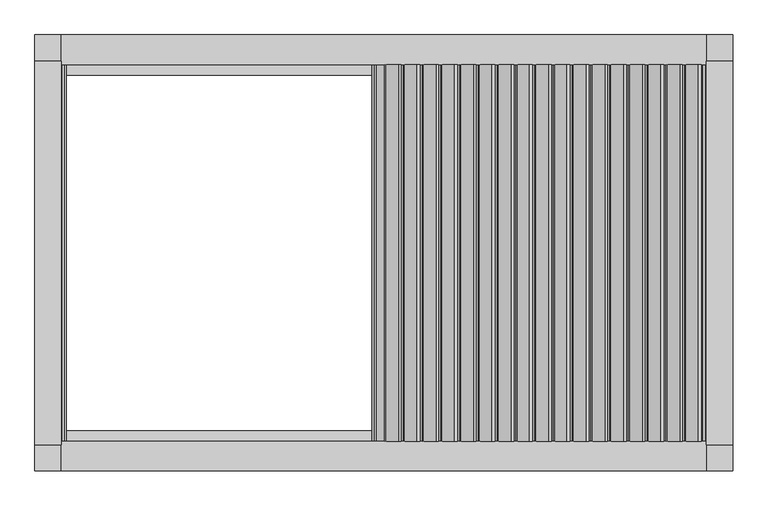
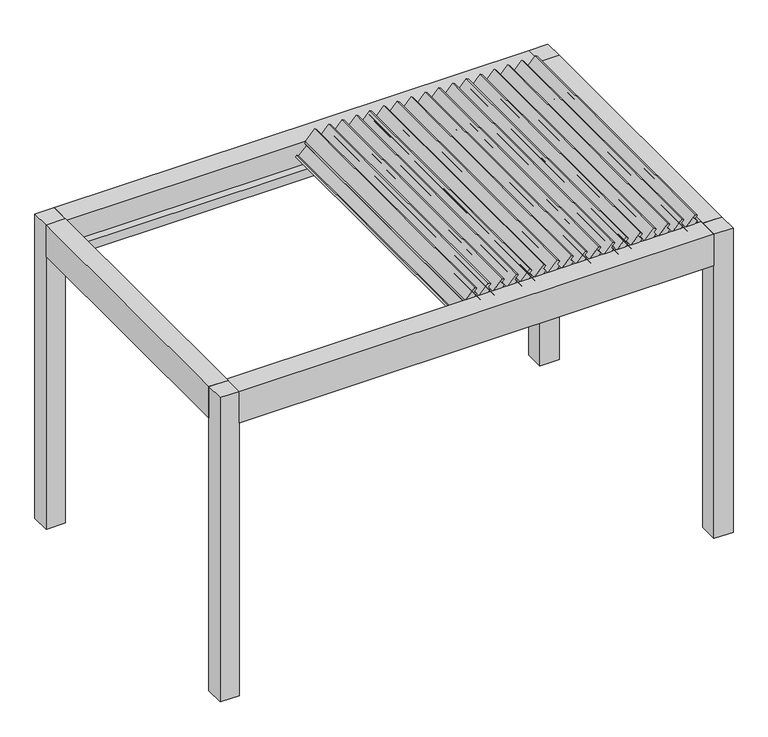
"""IFC4 building model written with IfcOpenShell, lengths in millimetres: proxy geometry, Renson_Camargue_Skye_Freestanding_Patio covers : Renson_Camargue_Skye_Freestanding_Patio covers."""

from ifc_helpers import new_model, si_unit, point, frame, frame_2d, origin, origin_with_axes, place, context, project, spatial, polyline, circle_curve, trimmed, segment, composite_curve, outline, extrude, source, transform, mapped, element, save


def generic_models_6c4b0e00(model_context):
    return source(origin(), model_context, "Body", "SweptSolid", [
        extrude(outline(composite_curve([segment(polyline([(2532.0835122, 1710.9276745), (2553.3547618, 1693.0789769), (2574.7237457, 1712.4891952), (2586.077577, 1696.2742437), (2504.561844, 1622.2305651)]), True, "CONTINUOUS"), segment(trimmed(circle_curve(frame_2d((2494.4763419, 1633.333837)), 15.0), [point((2504.561844, 1622.2305651))], [point((2485.8726953, 1621.0465563))], False, "CARTESIAN"), True, "CONTINUOUS"), segment(polyline([(2485.8726953, 1621.0465563), (2469.8777579, 1632.2463321), (2407.8391957, 1570.2077699), (2417.7863257, 1556.0017959), (2406.4649975, 1545.7182254), (2384.9376513, 1563.7818136), (2532.0835122, 1710.9276745)]), True, "CONTINUOUS")], self_intersect=False)), frame((0.0, -1080.0, 0.0), z_axis=(0.0, 1.0, 0.0), x_axis=(0.0, 0.0, 1.0)), (0.0, 0.0, 1.0), 2160.0),
        extrude(outline(composite_curve([segment(polyline([(2532.0835122, 1603.4168697), (2553.3547618, 1585.5681721), (2574.7237457, 1604.9783904), (2586.077577, 1588.7634389), (2504.561844, 1514.7197603)]), True, "CONTINUOUS"), segment(trimmed(circle_curve(frame_2d((2494.4763419, 1525.8230322)), 15.0), [point((2504.561844, 1514.7197603))], [point((2485.8726953, 1513.5357516))], False, "CARTESIAN"), True, "CONTINUOUS"), segment(polyline([(2485.8726953, 1513.5357516), (2469.8777579, 1524.7355273), (2407.8391957, 1462.6969652), (2417.7863257, 1448.4909912), (2406.4649975, 1438.2074206), (2384.9376513, 1456.2710088), (2532.0835122, 1603.4168697)]), True, "CONTINUOUS")], self_intersect=False)), frame((0.0, -1080.0, 0.0), z_axis=(0.0, 1.0, 0.0), x_axis=(0.0, 0.0, 1.0)), (0.0, 0.0, 1.0), 2160.0),
        extrude(outline(composite_curve([segment(polyline([(2532.0835122, 1495.906065), (2553.3547618, 1478.0573673), (2574.7237457, 1497.4675857), (2586.077577, 1481.2526342), (2504.561844, 1407.2089555)]), True, "CONTINUOUS"), segment(trimmed(circle_curve(frame_2d((2494.4763419, 1418.3122274)), 15.0), [point((2504.561844, 1407.2089555))], [point((2485.8726953, 1406.0249468))], False, "CARTESIAN"), True, "CONTINUOUS"), segment(polyline([(2485.8726953, 1406.0249468), (2469.8777579, 1417.2247226), (2407.8391957, 1355.1861604), (2417.7863257, 1340.9801864), (2406.4649975, 1330.6966158), (2384.9376513, 1348.760204), (2532.0835122, 1495.906065)]), True, "CONTINUOUS")], self_intersect=False)), frame((0.0, -1080.0, 0.0), z_axis=(0.0, 1.0, 0.0), x_axis=(0.0, 0.0, 1.0)), (0.0, 0.0, 1.0), 2160.0),
        extrude(outline(composite_curve([segment(polyline([(2532.0835122, 1388.3952602), (2553.3547618, 1370.5465625), (2574.7237457, 1389.9567809), (2586.077577, 1373.7418294), (2504.561844, 1299.6981507)]), True, "CONTINUOUS"), segment(trimmed(circle_curve(frame_2d((2494.4763419, 1310.8014227)), 15.0), [point((2504.561844, 1299.6981507))], [point((2485.8726953, 1298.514142))], False, "CARTESIAN"), True, "CONTINUOUS"), segment(polyline([(2485.8726953, 1298.514142), (2469.8777579, 1309.7139178), (2407.8391957, 1247.6753556), (2417.7863257, 1233.4693816), (2406.4649975, 1223.185811), (2384.9376513, 1241.2493993), (2532.0835122, 1388.3952602)]), True, "CONTINUOUS")], self_intersect=False)), frame((0.0, -1080.0, 0.0), z_axis=(0.0, 1.0, 0.0), x_axis=(0.0, 0.0, 1.0)), (0.0, 0.0, 1.0), 2160.0),
        extrude(outline(composite_curve([segment(polyline([(2532.0835122, 1280.8844554), (2553.3547618, 1263.0357577), (2574.7237457, 1282.4459761), (2586.077577, 1266.2310246), (2504.561844, 1192.187346)]), True, "CONTINUOUS"), segment(trimmed(circle_curve(frame_2d((2494.4763419, 1203.2906179)), 15.0), [point((2504.561844, 1192.187346))], [point((2485.8726953, 1191.0033372))], False, "CARTESIAN"), True, "CONTINUOUS"), segment(polyline([(2485.8726953, 1191.0033372), (2469.8777579, 1202.203113), (2407.8391957, 1140.1645508), (2417.7863257, 1125.9585768), (2406.4649975, 1115.6750063), (2384.9376513, 1133.7385945), (2532.0835122, 1280.8844554)]), True, "CONTINUOUS")], self_intersect=False)), frame((0.0, -1080.0, 0.0), z_axis=(0.0, 1.0, 0.0), x_axis=(0.0, 0.0, 1.0)), (0.0, 0.0, 1.0), 2160.0),
        extrude(outline(composite_curve([segment(polyline([(2532.0835122, 1173.3736506), (2553.3547618, 1155.5249529), (2574.7237457, 1174.9351713), (2586.077577, 1158.7202198), (2504.561844, 1084.6765412)]), True, "CONTINUOUS"), segment(trimmed(circle_curve(frame_2d((2494.4763419, 1095.7798131)), 15.0), [point((2504.561844, 1084.6765412))], [point((2485.8726953, 1083.4925324))], False, "CARTESIAN"), True, "CONTINUOUS"), segment(polyline([(2485.8726953, 1083.4925324), (2469.8777579, 1094.6923082), (2407.8391957, 1032.653746), (2417.7863257, 1018.447772), (2406.4649975, 1008.1642015), (2384.9376513, 1026.2277897), (2532.0835122, 1173.3736506)]), True, "CONTINUOUS")], self_intersect=False)), frame((0.0, -1080.0, 0.0), z_axis=(0.0, 1.0, 0.0), x_axis=(0.0, 0.0, 1.0)), (0.0, 0.0, 1.0), 2160.0),
        extrude(outline(composite_curve([segment(polyline([(2532.0835122, 1065.8628458), (2553.3547618, 1048.0141482), (2574.7237457, 1067.4243665), (2586.077577, 1051.209415), (2504.561844, 977.1657364)]), True, "CONTINUOUS"), segment(trimmed(circle_curve(frame_2d((2494.4763419, 988.2690083)), 15.0), [point((2504.561844, 977.1657364))], [point((2485.8726953, 975.9817276))], False, "CARTESIAN"), True, "CONTINUOUS"), segment(polyline([(2485.8726953, 975.9817276), (2469.8777579, 987.1815034), (2407.8391957, 925.1429413), (2417.7863257, 910.9369673), (2406.4649975, 900.6533967), (2384.9376513, 918.7169849), (2532.0835122, 1065.8628458)]), True, "CONTINUOUS")], self_intersect=False)), frame((0.0, -1080.0, 0.0), z_axis=(0.0, 1.0, 0.0), x_axis=(0.0, 0.0, 1.0)), (0.0, 0.0, 1.0), 2160.0),
        extrude(outline(composite_curve([segment(polyline([(2532.0835122, 958.3520411), (2553.3547618, 940.5033434), (2574.7237457, 959.9135617), (2586.077577, 943.6986103), (2504.561844, 869.6549316)]), True, "CONTINUOUS"), segment(trimmed(circle_curve(frame_2d((2494.4763419, 880.7582035)), 15.0), [point((2504.561844, 869.6549316))], [point((2485.8726953, 868.4709229))], False, "CARTESIAN"), True, "CONTINUOUS"), segment(polyline([(2485.8726953, 868.4709229), (2469.8777579, 879.6706987), (2407.8391957, 817.6321365), (2417.7863257, 803.4261625), (2406.4649975, 793.1425919), (2384.9376513, 811.2061801), (2532.0835122, 958.3520411)]), True, "CONTINUOUS")], self_intersect=False)), frame((0.0, -1080.0, 0.0), z_axis=(0.0, 1.0, 0.0), x_axis=(0.0, 0.0, 1.0)), (0.0, 0.0, 1.0), 2160.0),
        extrude(outline(composite_curve([segment(polyline([(2532.0835122, 850.8412363), (2553.3547618, 832.9925386), (2574.7237457, 852.402757), (2586.077577, 836.1878055), (2504.561844, 762.1441268)]), True, "CONTINUOUS"), segment(trimmed(circle_curve(frame_2d((2494.4763419, 773.2473987)), 15.0), [point((2504.561844, 762.1441268))], [point((2485.8726953, 760.9601181))], False, "CARTESIAN"), True, "CONTINUOUS"), segment(polyline([(2485.8726953, 760.9601181), (2469.8777579, 772.1598939), (2407.8391957, 710.1213317), (2417.7863257, 695.9153577), (2406.4649975, 685.6317871), (2384.9376513, 703.6953753), (2532.0835122, 850.8412363)]), True, "CONTINUOUS")], self_intersect=False)), frame((0.0, -1080.0, 0.0), z_axis=(0.0, 1.0, 0.0), x_axis=(0.0, 0.0, 1.0)), (0.0, 0.0, 1.0), 2160.0),
        extrude(outline(composite_curve([segment(polyline([(2532.0835122, 743.3304315), (2553.3547618, 725.4817338), (2574.7237457, 744.8919522), (2586.077577, 728.6770007), (2504.561844, 654.6333221)]), True, "CONTINUOUS"), segment(trimmed(circle_curve(frame_2d((2494.4763419, 665.736594)), 15.0), [point((2504.561844, 654.6333221))], [point((2485.8726953, 653.4493133))], False, "CARTESIAN"), True, "CONTINUOUS"), segment(polyline([(2485.8726953, 653.4493133), (2469.8777579, 664.6490891), (2407.8391957, 602.6105269), (2417.7863257, 588.4045529), (2406.4649975, 578.1209823), (2384.9376513, 596.1845706), (2532.0835122, 743.3304315)]), True, "CONTINUOUS")], self_intersect=False)), frame((0.0, -1080.0, 0.0), z_axis=(0.0, 1.0, 0.0), x_axis=(0.0, 0.0, 1.0)), (0.0, 0.0, 1.0), 2160.0),
        extrude(outline(composite_curve([segment(polyline([(2532.0835122, 635.8196267), (2553.3547618, 617.970929), (2574.7237457, 637.3811474), (2586.077577, 621.1661959), (2504.561844, 547.1225173)]), True, "CONTINUOUS"), segment(trimmed(circle_curve(frame_2d((2494.4763419, 558.2257892)), 15.0), [point((2504.561844, 547.1225173))], [point((2485.8726953, 545.9385085))], False, "CARTESIAN"), True, "CONTINUOUS"), segment(polyline([(2485.8726953, 545.9385085), (2469.8777579, 557.1382843), (2407.8391957, 495.0997221), (2417.7863257, 480.8937481), (2406.4649975, 470.6101776), (2384.9376513, 488.6737658), (2532.0835122, 635.8196267)]), True, "CONTINUOUS")], self_intersect=False)), frame((0.0, -1080.0, 0.0), z_axis=(0.0, 1.0, 0.0), x_axis=(0.0, 0.0, 1.0)), (0.0, 0.0, 1.0), 2160.0),
        extrude(outline(composite_curve([segment(polyline([(2532.0835122, 528.3088219), (2553.3547618, 510.4601243), (2574.7237457, 529.8703426), (2586.077577, 513.6553911), (2504.561844, 439.6117125)]), True, "CONTINUOUS"), segment(trimmed(circle_curve(frame_2d((2494.4763419, 450.7149844)), 15.0), [point((2504.561844, 439.6117125))], [point((2485.8726953, 438.4277037))], False, "CARTESIAN"), True, "CONTINUOUS"), segment(polyline([(2485.8726953, 438.4277037), (2469.8777579, 449.6274795), (2407.8391957, 387.5889173), (2417.7863257, 373.3829433), (2406.4649975, 363.0993728), (2384.9376513, 381.162961), (2532.0835122, 528.3088219)]), True, "CONTINUOUS")], self_intersect=False)), frame((0.0, -1080.0, 0.0), z_axis=(0.0, 1.0, 0.0), x_axis=(0.0, 0.0, 1.0)), (0.0, 0.0, 1.0), 2160.0),
        extrude(outline(composite_curve([segment(polyline([(2532.0835122, 420.7980171), (2553.3547618, 402.9493195), (2574.7237457, 422.3595378), (2586.077577, 406.1445863), (2504.561844, 332.1009077)]), True, "CONTINUOUS"), segment(trimmed(circle_curve(frame_2d((2494.4763419, 343.2041796)), 15.0), [point((2504.561844, 332.1009077))], [point((2485.8726953, 330.916899))], False, "CARTESIAN"), True, "CONTINUOUS"), segment(polyline([(2485.8726953, 330.916899), (2469.8777579, 342.1166747), (2407.8391957, 280.0781126), (2417.7863257, 265.8721386), (2406.4649975, 255.588568), (2384.9376513, 273.6521562), (2532.0835122, 420.7980171)]), True, "CONTINUOUS")], self_intersect=False)), frame((0.0, -1080.0, 0.0), z_axis=(0.0, 1.0, 0.0), x_axis=(0.0, 0.0, 1.0)), (0.0, 0.0, 1.0), 2160.0),
        extrude(outline(composite_curve([segment(polyline([(2532.0835122, 313.2872124), (2553.3547618, 295.4385147), (2574.7237457, 314.8487331), (2586.077577, 298.6337816), (2504.561844, 224.5901029)]), True, "CONTINUOUS"), segment(trimmed(circle_curve(frame_2d((2494.4763419, 235.6933748)), 15.0), [point((2504.561844, 224.5901029))], [point((2485.8726953, 223.4060942))], False, "CARTESIAN"), True, "CONTINUOUS"), segment(polyline([(2485.8726953, 223.4060942), (2469.8777579, 234.60587), (2407.8391957, 172.5673078), (2417.7863257, 158.3613338), (2406.4649975, 148.0777632), (2384.9376513, 166.1413514), (2532.0835122, 313.2872124)]), True, "CONTINUOUS")], self_intersect=False)), frame((0.0, -1080.0, 0.0), z_axis=(0.0, 1.0, 0.0), x_axis=(0.0, 0.0, 1.0)), (0.0, 0.0, 1.0), 2160.0),
        extrude(outline(composite_curve([segment(polyline([(2532.0835122, 205.7764076), (2553.3547618, 187.9277099), (2574.7237457, 207.3379283), (2586.077577, 191.1229768), (2504.561844, 117.0792981)]), True, "CONTINUOUS"), segment(trimmed(circle_curve(frame_2d((2494.4763419, 128.1825701)), 15.0), [point((2504.561844, 117.0792981))], [point((2485.8726953, 115.8952894))], False, "CARTESIAN"), True, "CONTINUOUS"), segment(polyline([(2485.8726953, 115.8952894), (2469.8777579, 127.0950652), (2407.8391957, 65.056503), (2417.7863257, 50.850529), (2406.4649975, 40.5669584), (2384.9376513, 58.6305467), (2532.0835122, 205.7764076)]), True, "CONTINUOUS")], self_intersect=False)), frame((0.0, -1080.0, 0.0), z_axis=(0.0, 1.0, 0.0), x_axis=(0.0, 0.0, 1.0)), (0.0, 0.0, 1.0), 2160.0),
        extrude(outline(composite_curve([segment(polyline([(2532.0835122, 1818.4384793), (2553.3547618, 1800.5897816), (2574.7237457, 1820.0), (2586.077577, 1803.7850485), (2504.561844, 1729.7413699)]), True, "CONTINUOUS"), segment(trimmed(circle_curve(frame_2d((2494.4763419, 1740.8446418)), 15.0), [point((2504.561844, 1729.7413699))], [point((2485.8726953, 1728.5573611))], False, "CARTESIAN"), True, "CONTINUOUS"), segment(polyline([(2485.8726953, 1728.5573611), (2469.8777579, 1739.7571369), (2407.8391957, 1677.7185747), (2417.7863257, 1663.5126007), (2406.4649975, 1653.2290302), (2384.9376513, 1671.2926184), (2532.0835122, 1818.4384793)]), True, "CONTINUOUS")], self_intersect=False)), frame((0.0, -1080.0, 0.0), z_axis=(0.0, 1.0, 0.0), x_axis=(0.0, 0.0, 1.0)), (0.0, 0.0, 1.0), 2160.0),
        extrude(outline(composite_curve([segment(polyline([(2532.0835122, 98.2656028), (2553.3547618, 80.4169051), (2574.7237457, 99.8271235), (2586.077577, 83.612172), (2504.561844, 9.5684934)]), True, "CONTINUOUS"), segment(trimmed(circle_curve(frame_2d((2494.4763419, 20.6717653)), 15.0), [point((2504.561844, 9.5684934))], [point((2485.8726953, 8.3844846))], False, "CARTESIAN"), True, "CONTINUOUS"), segment(polyline([(2485.8726953, 8.3844846), (2469.8777579, 19.5842604), (2407.8391957, -42.4543018), (2417.7863257, -56.6602758), (2406.4649975, -66.9438463), (2384.9376513, -48.8802581), (2532.0835122, 98.2656028)]), True, "CONTINUOUS")], self_intersect=False)), frame((0.0, -1080.0, 0.0), z_axis=(0.0, 1.0, 0.0), x_axis=(0.0, 0.0, 1.0)), (0.0, 0.0, 1.0), 2160.0),
        extrude(outline(polyline([(2441.6559373, -1850.0), (2441.6559373, -1824.0), (2455.6555802, -1820.2487113), (2455.6555802, -1829.5940945), (2471.400763, -1845.0), (2479.2449277, -1845.0), (2479.6823598, -1850.0), (2441.6559373, -1850.0)])), frame((0.0, -1100.0, 0.0), z_axis=(0.0, 1.0, 0.0), x_axis=(0.0, 0.0, 1.0)), (0.0, 0.0, 1.0), 2200.0),
        extrude(outline(polyline([(-1850.0, -1100.0), (-2000.0, -1100.0), (-2000.0, 1100.0), (-1850.0, 1100.0), (-1850.0, -1100.0)])), frame((0.0, 0.0, 2250.0), z_axis=(0.0, 0.0, 1.0), x_axis=(1.0, 0.0, 0.0)), (0.0, 0.0, 1.0), 260.0),
        extrude(outline(polyline([(2510.0, 2000.0), (2510.0, 1850.0), (2479.6904658, 1850.0), (2479.2449277, 1845.0), (2471.400763, 1845.0), (2455.6555802, 1829.2544156), (2455.6555802, 1819.9090324), (2441.6559373, 1823.6603211), (2441.6559373, 1850.0), (2250.0, 1850.0), (2250.0, 2000.0), (2510.0, 2000.0)])), frame((0.0, -1100.0, 0.0), z_axis=(0.0, 1.0, 0.0), x_axis=(0.0, 0.0, 1.0)), (0.0, 0.0, 1.0), 2200.0),
        extrude(outline(polyline([(-1080.0, 2510.0), (-1080.0, 2322.0), (-1020.0, 2322.0), (-1020.0, 2250.0), (-1250.0, 2250.0), (-1250.0, 2510.0), (-1080.0, 2510.0)])), frame((-1850.0, 0.0, 0.0), z_axis=(1.0, 0.0, 0.0), x_axis=(0.0, 1.0, 0.0)), (0.0, 0.0, 1.0), 3700.0),
        extrude(outline(polyline([(1250.0, 2250.0), (1020.0, 2250.0), (1020.0, 2322.0), (1080.0, 2322.0), (1080.0, 2510.0), (1250.0, 2510.0), (1250.0, 2250.0)])), frame((-1850.0, 0.0, 0.0), z_axis=(1.0, 0.0, 0.0), x_axis=(0.0, 1.0, 0.0)), (0.0, 0.0, 1.0), 3700.0),
        extrude(outline(polyline([(-1850.0, 1250.0), (-1850.0, 1100.0), (-2000.0, 1100.0), (-2000.0, 1250.0), (-1850.0, 1250.0)])), origin_with_axes(), (0.0, 0.0, 1.0), 2510.0),
        extrude(outline(polyline([(2000.0, 1250.0), (2000.0, 1100.0), (1850.0, 1100.0), (1850.0, 1250.0), (2000.0, 1250.0)])), origin_with_axes(), (0.0, 0.0, 1.0), 2510.0),
        extrude(outline(polyline([(2000.0, -1100.0), (2000.0, -1250.0), (1850.0, -1250.0), (1850.0, -1100.0), (2000.0, -1100.0)])), origin_with_axes(), (0.0, 0.0, 1.0), 2510.0),
        extrude(outline(polyline([(-1850.0, -1100.0), (-1850.0, -1250.0), (-2000.0, -1250.0), (-2000.0, -1100.0), (-1850.0, -1100.0)])), origin_with_axes(), (0.0, 0.0, 1.0), 2510.0),
    ])


if __name__ == "__main__":
    model = new_model("IFC4")
    model_context = context("Model", 3, world=origin())
    ifc_project = project(units=[si_unit("LENGTHUNIT", "METRE", prefix="MILLI")], contexts=[model_context])
    site = spatial("IfcSite", under=ifc_project)
    building = spatial("IfcBuilding", under=site)
    placement = place(None, origin())
    generic_models_shape = generic_models_6c4b0e00(model_context)
    element("IfcBuildingElementProxy", 1, Name="Renson_Camargue_Skye_Freestanding_Patio covers : Renson_Camargue_Skye_Freestanding_Patio covers", ObjectType="Renson_Camargue_Skye_Freestanding_Patio covers : Renson_Camargue_Skye_Freestanding_Patio covers", at=placement, inside=building, context=model_context, shape_type="MappedRepresentation", body=[
        mapped(generic_models_shape, transform((0.0, 0.0, 0.0), x_axis=(1.0, 0.0, 0.0), y_axis=(0.0, 1.0, 0.0), z_axis=(0.0, 0.0, 1.0))),
    ])
    save(model, "model.ifc")
